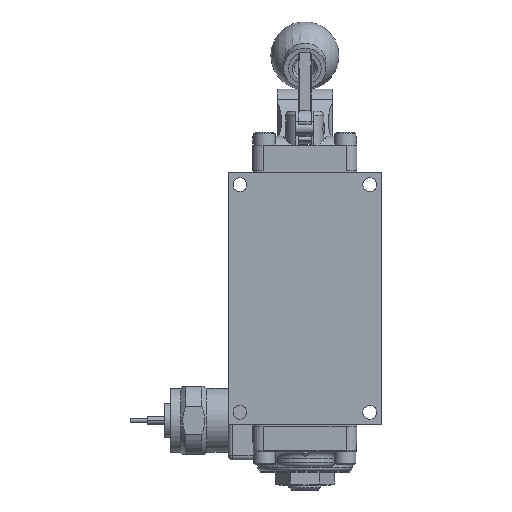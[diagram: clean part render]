
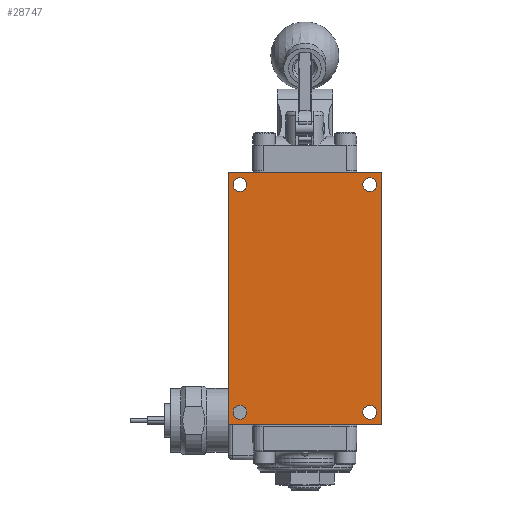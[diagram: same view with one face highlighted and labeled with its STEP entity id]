
A CAD part, front view. The second image highlights one B-rep face of the part: STEP entity #28747.
In plain terms, the highlighted planar face has unit normal (0, -1, 0).
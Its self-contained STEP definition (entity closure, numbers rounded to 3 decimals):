
#714=FACE_BOUND('',#4320,.T.);
#715=FACE_BOUND('',#4321,.T.);
#716=FACE_BOUND('',#4322,.T.);
#717=FACE_BOUND('',#4323,.T.);
#1078=PLANE('',#30561);
#2613=FACE_OUTER_BOUND('',#4319,.T.);
#4319=EDGE_LOOP('',(#20205,#20206,#20207,#20208));
#4320=EDGE_LOOP('',(#20209));
#4321=EDGE_LOOP('',(#20210));
#4322=EDGE_LOOP('',(#20211));
#4323=EDGE_LOOP('',(#20212));
#6001=CIRCLE('',#30519,0.258);
#6002=CIRCLE('',#30521,0.258);
#6003=CIRCLE('',#30523,0.258);
#6004=CIRCLE('',#30525,0.258);
#7218=LINE('',#41084,#9361);
#7225=LINE('',#41106,#9368);
#7443=LINE('',#42155,#9586);
#7685=LINE('',#43579,#9828);
#9361=VECTOR('',#33096,1.);
#9368=VECTOR('',#33113,1.);
#9586=VECTOR('',#33517,1.);
#9828=VECTOR('',#33913,1.);
#11528=VERTEX_POINT('',#41081);
#11529=VERTEX_POINT('',#41083);
#11538=VERTEX_POINT('',#41103);
#11539=VERTEX_POINT('',#41105);
#12105=VERTEX_POINT('',#44536);
#12106=VERTEX_POINT('',#44540);
#12107=VERTEX_POINT('',#44544);
#12108=VERTEX_POINT('',#44548);
#14263=EDGE_CURVE('',#11528,#11529,#7218,.T.);
#14274=EDGE_CURVE('',#11538,#11539,#7225,.T.);
#14564=EDGE_CURVE('',#11529,#11538,#7443,.T.);
#14902=EDGE_CURVE('',#11539,#11528,#7685,.T.);
#15113=EDGE_CURVE('',#12105,#12105,#6001,.T.);
#15115=EDGE_CURVE('',#12106,#12106,#6002,.T.);
#15117=EDGE_CURVE('',#12107,#12107,#6003,.T.);
#15119=EDGE_CURVE('',#12108,#12108,#6004,.T.);
#20205=ORIENTED_EDGE('',*,*,#14564,.F.);
#20206=ORIENTED_EDGE('',*,*,#14263,.F.);
#20207=ORIENTED_EDGE('',*,*,#14902,.F.);
#20208=ORIENTED_EDGE('',*,*,#14274,.F.);
#20209=ORIENTED_EDGE('',*,*,#15113,.T.);
#20210=ORIENTED_EDGE('',*,*,#15115,.T.);
#20211=ORIENTED_EDGE('',*,*,#15117,.T.);
#20212=ORIENTED_EDGE('',*,*,#15119,.T.);
#28747=ADVANCED_FACE('',(#2613,#714,#715,#716,#717),#1078,.F.);
#30519=AXIS2_PLACEMENT_3D('',#44538,#34344,#34345);
#30521=AXIS2_PLACEMENT_3D('',#44542,#34349,#34350);
#30523=AXIS2_PLACEMENT_3D('',#44546,#34354,#34355);
#30525=AXIS2_PLACEMENT_3D('',#44550,#34359,#34360);
#30561=AXIS2_PLACEMENT_3D('',#44621,#34446,#34447);
#33096=DIRECTION('',(-1.,0.,0.));
#33113=DIRECTION('',(1.,0.,0.));
#33517=DIRECTION('',(0.,0.,1.));
#33913=DIRECTION('',(0.,0.,-1.));
#34344=DIRECTION('center_axis',(0.,1.,0.));
#34345=DIRECTION('ref_axis',(-1.,0.,0.));
#34349=DIRECTION('center_axis',(0.,1.,0.));
#34350=DIRECTION('ref_axis',(-1.,0.,0.));
#34354=DIRECTION('center_axis',(0.,1.,0.));
#34355=DIRECTION('ref_axis',(-1.,0.,0.));
#34359=DIRECTION('center_axis',(0.,1.,0.));
#34360=DIRECTION('ref_axis',(-1.,0.,0.));
#34446=DIRECTION('center_axis',(0.,1.,0.));
#34447=DIRECTION('ref_axis',(0.,0.,1.));
#41081=CARTESIAN_POINT('',(2.858,-1.636,-4.71));
#41083=CARTESIAN_POINT('',(-2.858,-1.636,-4.71));
#41084=CARTESIAN_POINT('',(2.858,-1.636,-4.71));
#41103=CARTESIAN_POINT('',(-2.858,-1.636,4.71));
#41105=CARTESIAN_POINT('',(2.858,-1.636,4.71));
#41106=CARTESIAN_POINT('',(-2.858,-1.636,4.71));
#42155=CARTESIAN_POINT('',(-2.858,-1.636,-4.71));
#43579=CARTESIAN_POINT('',(2.858,-1.636,4.71));
#44536=CARTESIAN_POINT('',(-2.163,-1.636,-4.247));
#44538=CARTESIAN_POINT('Origin',(-2.421,-1.636,-4.247));
#44540=CARTESIAN_POINT('',(-2.163,-1.636,4.247));
#44542=CARTESIAN_POINT('Origin',(-2.421,-1.636,4.247));
#44544=CARTESIAN_POINT('',(2.678,-1.636,-4.247));
#44546=CARTESIAN_POINT('Origin',(2.421,-1.636,-4.247));
#44548=CARTESIAN_POINT('',(2.678,-1.636,4.247));
#44550=CARTESIAN_POINT('Origin',(2.421,-1.636,4.247));
#44621=CARTESIAN_POINT('Origin',(0.,-1.636,0.));
